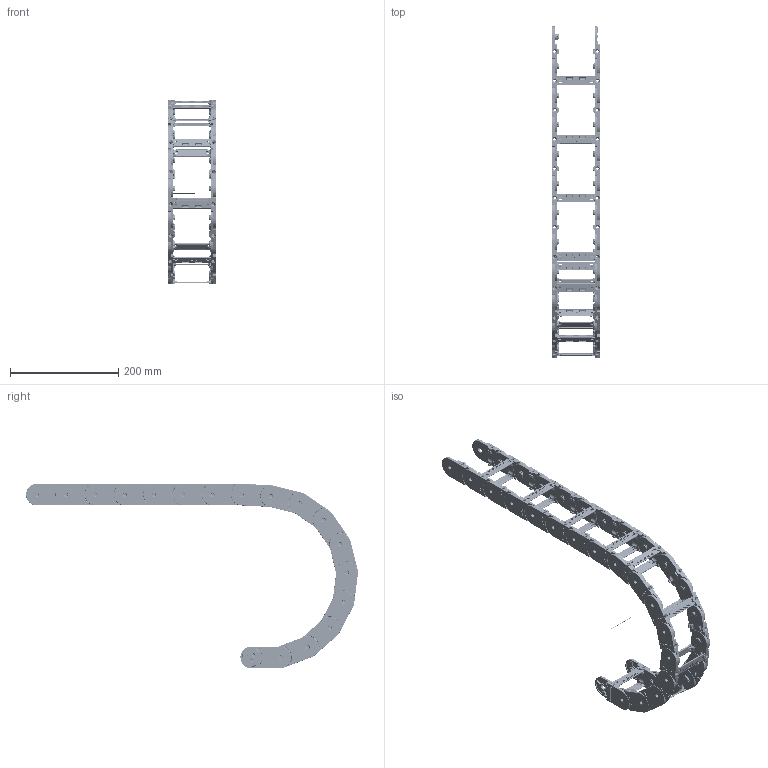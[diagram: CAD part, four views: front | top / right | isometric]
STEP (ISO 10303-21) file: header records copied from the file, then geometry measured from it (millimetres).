
FILE_DESCRIPTION((''),'2;1');
FILE_NAME('E:\Uebbing\PARAMETERKETTEN\PKK\PKK 140\PKK 140 R150 vereinfacht.stp','2018-09-25T10:49:35',('Nutzer'),(''),'Autodesk Inventor 10','Autodesk Inventor 10','');
FILE_SCHEMA(('AUTOMOTIVE_DESIGN { 1 0 10303 214 1 1 1 1 }'));
Length unit declared in the file: millimetre
Products named in the file (8): PKK 140 PARAMETRISCH; Achse; PKK 140 Glied; PKK 120 Steg 70; PKK 140 Hauptlasche R50 3 Anschläge; PKK 120 Spreizriegel; PKK 140 Glied ohne STEG; PKK 140 Hauptlasche R60
Assembly tree (28 placements, depth 3):
  PKK 140 PARAMETRISCH
    Achse
    PKK 140 Glied  x9
      PKK 120 Steg 70
      PKK 140 Hauptlasche R50 3 Anschläge
      PKK 120 Spreizriegel
    PKK 140 Glied ohne STEG  x8
      PKK 140 Hauptlasche R60
      PKK 120 Spreizriegel
Bounding box: 88 x 611.93 x 340 mm (x, y, z)
Volume: 623326.2 mm3; surface area: 419036 mm2
Topology: 87 solids, 87 shells, 24859 faces, 66266 edges, 42801 vertices
Faces by surface type: plane 12166, cylinder 7009, bspline 3958, torus 1014, cone 540, sphere 172
Full cylindrical faces by diameter (mm): 1 x1, 1.474 x34, 2.589 x34, 4.2 x34, 6 x34, 8.2 x34, 10 x34, 10.1 x34
Entity records: 47348 total; most frequent: CARTESIAN_POINT 13727, ORIENTED_EDGE 7224, DIRECTION 6437, EDGE_CURVE 3612, VERTEX_POINT 2365, VECTOR 2299, LINE 2299, AXIS2_PLACEMENT_3D 2069
